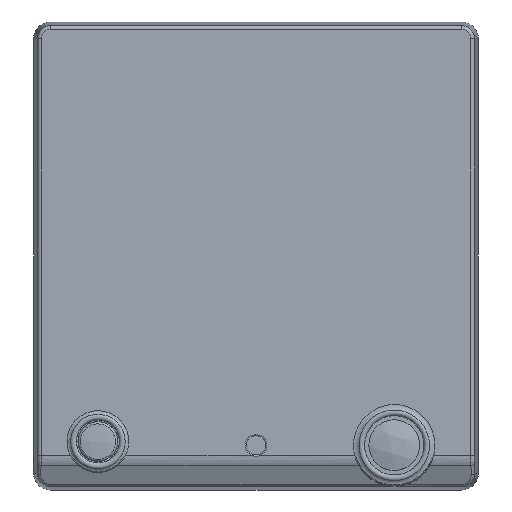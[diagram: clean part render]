
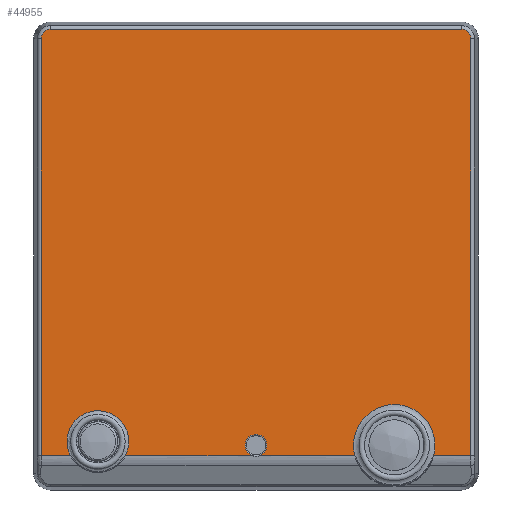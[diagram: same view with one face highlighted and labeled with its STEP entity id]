
A CAD part, top view. The second image highlights one B-rep face of the part: STEP entity #44955.
In plain terms, the highlighted planar face has unit normal (0, 0, 1).
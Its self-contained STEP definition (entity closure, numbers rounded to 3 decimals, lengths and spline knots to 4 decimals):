
#710 = DIRECTION ( 'NONE',  ( 1., 0., 0. ) ) ;
#1480 = CARTESIAN_POINT ( 'NONE',  ( 1.6521, 1.6693, 0.675 ) ) ;
#1614 = DIRECTION ( 'NONE',  ( 1., 0., 0. ) ) ;
#1697 = CIRCLE ( 'NONE', #25680, 0.0722 ) ;
#1723 = DIRECTION ( 'NONE',  ( 0., 1., 0. ) ) ;
#2084 = CARTESIAN_POINT ( 'NONE',  ( -1.4275, -1.5355, 0.675 ) ) ;
#2221 = VECTOR ( 'NONE', #30349, 39.3701 ) ;
#2288 = CARTESIAN_POINT ( 'NONE',  ( 1.366, -1.5355, 0.675 ) ) ;
#3138 = DIRECTION ( 'NONE',  ( 0., 0., 1. ) ) ;
#3434 = DIRECTION ( 'NONE',  ( -1., 0., 0. ) ) ;
#3522 = VECTOR ( 'NONE', #32431, 39.3701 ) ;
#3815 = ORIENTED_EDGE ( 'NONE', *, *, #9123, .T. ) ;
#3906 = LINE ( 'NONE', #1480, #13390 ) ;
#5898 = VERTEX_POINT ( 'NONE', #19391 ) ;
#6260 = ORIENTED_EDGE ( 'NONE', *, *, #51475, .T. ) ;
#7349 = LINE ( 'NONE', #19526, #26306 ) ;
#7410 = VERTEX_POINT ( 'NONE', #24386 ) ;
#7723 = VERTEX_POINT ( 'NONE', #17783 ) ;
#8199 = CARTESIAN_POINT ( 'NONE',  ( 1.6804, -1.5355, 0.675 ) ) ;
#9049 = VERTEX_POINT ( 'NONE', #21964 ) ;
#9123 = EDGE_CURVE ( 'NONE', #15858, #7723, #7349, .T. ) ;
#9150 = CIRCLE ( 'NONE', #11501, 0.2376 ) ;
#9253 = DIRECTION ( 'NONE',  ( -1., 0., 0. ) ) ;
#9267 = DIRECTION ( 'NONE',  ( 0., 0., -1. ) ) ;
#9335 = CARTESIAN_POINT ( 'NONE',  ( 1.063, -1.4567, 0.675 ) ) ;
#10184 = DIRECTION ( 'NONE',  ( 0., 0., -1. ) ) ;
#10412 = CARTESIAN_POINT ( 'NONE',  ( 1.063, -1.4567, 0.675 ) ) ;
#10723 = EDGE_CURVE ( 'NONE', #7723, #30205, #39438, .T. ) ;
#11501 = AXIS2_PLACEMENT_3D ( 'NONE', #48959, #24869, #710 ) ;
#11517 = VERTEX_POINT ( 'NONE', #33111 ) ;
#11801 = EDGE_CURVE ( 'NONE', #46116, #5898, #26121, .T. ) ;
#12237 = ORIENTED_EDGE ( 'NONE', *, *, #38021, .T. ) ;
#12285 = EDGE_CURVE ( 'NONE', #34147, #11517, #3906, .T. ) ;
#12755 = VECTOR ( 'NONE', #3434, 39.3701 ) ;
#12830 = CARTESIAN_POINT ( 'NONE',  ( -1.5799, 1.7415, 0.675 ) ) ;
#13168 = CARTESIAN_POINT ( 'NONE',  ( 1.6804, -1.5355, 0.675 ) ) ;
#13233 = VERTEX_POINT ( 'NONE', #24405 ) ;
#13390 = VECTOR ( 'NONE', #1723, 39.3701 ) ;
#13636 = DIRECTION ( 'NONE',  ( 1., 0., 0. ) ) ;
#13863 = EDGE_CURVE ( 'NONE', #5898, #51215, #20323, .T. ) ;
#13956 = CARTESIAN_POINT ( 'NONE',  ( 1.6804, -1.5355, 0.675 ) ) ;
#14518 = DIRECTION ( 'NONE',  ( -1., 0., 0. ) ) ;
#14534 = DIRECTION ( 'NONE',  ( 0., 0., 1. ) ) ;
#14761 = PLANE ( 'NONE',  #46909 ) ;
#15027 = VERTEX_POINT ( 'NONE', #22041 ) ;
#15858 = VERTEX_POINT ( 'NONE', #36806 ) ;
#16448 = AXIS2_PLACEMENT_3D ( 'NONE', #27329, #3138, #31376 ) ;
#16599 = ORIENTED_EDGE ( 'NONE', *, *, #10723, .T. ) ;
#17297 = FACE_OUTER_BOUND ( 'NONE', #26673, .T. ) ;
#17783 = CARTESIAN_POINT ( 'NONE',  ( -1.6521, -1.5355, 0.675 ) ) ;
#19110 = CARTESIAN_POINT ( 'NONE',  ( 1.1055, -1.1465, 0.675 ) ) ;
#19179 = CARTESIAN_POINT ( 'NONE',  ( 1.0772, -1.1451, 0.675 ) ) ;
#19295 = CARTESIAN_POINT ( 'NONE',  ( 1.0205, -1.1465, 0.675 ) ) ;
#19391 = CARTESIAN_POINT ( 'NONE',  ( 1.1055, -1.1465, 0.675 ) ) ;
#19413 = CARTESIAN_POINT ( 'NONE',  ( 1.0488, -1.1451, 0.675 ) ) ;
#19484 = ORIENTED_EDGE ( 'NONE', *, *, #13863, .T. ) ;
#19526 = CARTESIAN_POINT ( 'NONE',  ( -1.6521, -1.5355, 0.675 ) ) ;
#20323 = CIRCLE ( 'NONE', #42267, 0.313 ) ;
#20517 = ORIENTED_EDGE ( 'NONE', *, *, #29235, .T. ) ;
#21278 = ORIENTED_EDGE ( 'NONE', *, *, #22081, .T. ) ;
#21443 = DIRECTION ( 'NONE',  ( 0., -1., 0. ) ) ;
#21883 = LINE ( 'NONE', #13956, #2221 ) ;
#21964 = CARTESIAN_POINT ( 'NONE',  ( -1.0036, -1.5355, 0.675 ) ) ;
#22041 = CARTESIAN_POINT ( 'NONE',  ( 0.76, -1.5355, 0.675 ) ) ;
#22081 = EDGE_CURVE ( 'NONE', #32790, #15858, #1697, .T. ) ;
#22121 = CIRCLE ( 'NONE', #33315, 0.0838 ) ;
#22892 = DIRECTION ( 'NONE',  ( 0., 0., 1. ) ) ;
#23413 = ORIENTED_EDGE ( 'NONE', *, *, #25559, .T. ) ;
#23730 = LINE ( 'NONE', #8199, #3522 ) ;
#24386 = CARTESIAN_POINT ( 'NONE',  ( 0.0285, -1.5355, 0.675 ) ) ;
#24405 = CARTESIAN_POINT ( 'NONE',  ( -0.0285, -1.5355, 0.675 ) ) ;
#24869 = DIRECTION ( 'NONE',  ( 0., 0., 1. ) ) ;
#25559 = EDGE_CURVE ( 'NONE', #13233, #7410, #22121, .T. ) ;
#25680 = AXIS2_PLACEMENT_3D ( 'NONE', #38753, #14534, #42747 ) ;
#26121 = B_SPLINE_CURVE_WITH_KNOTS ( 'NONE', 3,
 ( #19295, #19413, #19179, #19110 ),
 .UNSPECIFIED., .F., .F.,
 ( 4, 4 ),
 ( -0.0001, 0.0021 ),
 .UNSPECIFIED. ) ;
#26306 = VECTOR ( 'NONE', #21443, 39.3701 ) ;
#26673 = EDGE_LOOP ( 'NONE', ( #31340, #19484, #20517, #37429, #12237, #44943, #21278, #3815, #16599, #45427, #6260, #23413, #33062, #30663 ) ) ;
#27329 = CARTESIAN_POINT ( 'NONE',  ( 1.5799, 1.6693, 0.675 ) ) ;
#29235 = EDGE_CURVE ( 'NONE', #51215, #34147, #21883, .T. ) ;
#30205 = VERTEX_POINT ( 'NONE', #2084 ) ;
#30349 = DIRECTION ( 'NONE',  ( 1., 0., 0. ) ) ;
#30663 = ORIENTED_EDGE ( 'NONE', *, *, #33540, .T. ) ;
#31340 = ORIENTED_EDGE ( 'NONE', *, *, #11801, .T. ) ;
#31376 = DIRECTION ( 'NONE',  ( 1., 0., 0. ) ) ;
#32431 = DIRECTION ( 'NONE',  ( 1., 0., 0. ) ) ;
#32610 = VERTEX_POINT ( 'NONE', #43200 ) ;
#32790 = VERTEX_POINT ( 'NONE', #12830 ) ;
#33062 = ORIENTED_EDGE ( 'NONE', *, *, #35465, .T. ) ;
#33111 = CARTESIAN_POINT ( 'NONE',  ( 1.6521, 1.6693, 0.675 ) ) ;
#33315 = AXIS2_PLACEMENT_3D ( 'NONE', #34430, #10184, #38502 ) ;
#33540 = EDGE_CURVE ( 'NONE', #15027, #46116, #52017, .T. ) ;
#33750 = CARTESIAN_POINT ( 'NONE',  ( 1.6804, -1.5355, 0.675 ) ) ;
#34132 = EDGE_CURVE ( 'NONE', #9049, #30205, #9150, .T. ) ;
#34147 = VERTEX_POINT ( 'NONE', #41113 ) ;
#34430 = CARTESIAN_POINT ( 'NONE',  ( 0., -1.4567, 0.675 ) ) ;
#35209 = AXIS2_PLACEMENT_3D ( 'NONE', #10412, #38731, #14518 ) ;
#35465 = EDGE_CURVE ( 'NONE', #7410, #15027, #43127, .T. ) ;
#35548 = LINE ( 'NONE', #51662, #12755 ) ;
#36311 = EDGE_CURVE ( 'NONE', #32610, #32790, #35548, .T. ) ;
#36806 = CARTESIAN_POINT ( 'NONE',  ( -1.6521, 1.6693, 0.675 ) ) ;
#37429 = ORIENTED_EDGE ( 'NONE', *, *, #12285, .T. ) ;
#38021 = EDGE_CURVE ( 'NONE', #11517, #32610, #47278, .T. ) ;
#38502 = DIRECTION ( 'NONE',  ( 1., 0., 0. ) ) ;
#38731 = DIRECTION ( 'NONE',  ( 0., 0., -1. ) ) ;
#38753 = CARTESIAN_POINT ( 'NONE',  ( -1.5799, 1.6693, 0.675 ) ) ;
#39438 = LINE ( 'NONE', #13168, #48812 ) ;
#41113 = CARTESIAN_POINT ( 'NONE',  ( 1.6521, -1.5355, 0.675 ) ) ;
#42267 = AXIS2_PLACEMENT_3D ( 'NONE', #9335, #9267, #9253 ) ;
#42747 = DIRECTION ( 'NONE',  ( 1., 0., 0. ) ) ;
#42982 = CARTESIAN_POINT ( 'NONE',  ( 1.5799, 1.6693, 0.675 ) ) ;
#43127 = LINE ( 'NONE', #33750, #46889 ) ;
#43200 = CARTESIAN_POINT ( 'NONE',  ( 1.5799, 1.7415, 0.675 ) ) ;
#44555 = CARTESIAN_POINT ( 'NONE',  ( 1.0205, -1.1465, 0.675 ) ) ;
#44943 = ORIENTED_EDGE ( 'NONE', *, *, #36311, .T. ) ;
#44955 = ADVANCED_FACE ( 'NONE', ( #17297 ), #14761, .T. ) ;
#45427 = ORIENTED_EDGE ( 'NONE', *, *, #34132, .F. ) ;
#46116 = VERTEX_POINT ( 'NONE', #44555 ) ;
#46889 = VECTOR ( 'NONE', #1614, 39.3701 ) ;
#46909 = AXIS2_PLACEMENT_3D ( 'NONE', #42982, #22892, #50989 ) ;
#47278 = CIRCLE ( 'NONE', #16448, 0.0722 ) ;
#48812 = VECTOR ( 'NONE', #13636, 39.3701 ) ;
#48959 = CARTESIAN_POINT ( 'NONE',  ( -1.2156, -1.4281, 0.675 ) ) ;
#50989 = DIRECTION ( 'NONE',  ( 1., 0., 0. ) ) ;
#51215 = VERTEX_POINT ( 'NONE', #2288 ) ;
#51475 = EDGE_CURVE ( 'NONE', #9049, #13233, #23730, .T. ) ;
#51662 = CARTESIAN_POINT ( 'NONE',  ( -1.5799, 1.7415, 0.675 ) ) ;
#52017 = CIRCLE ( 'NONE', #35209, 0.313 ) ;
